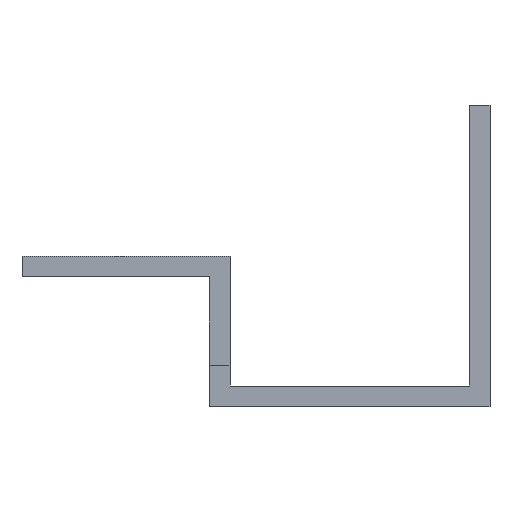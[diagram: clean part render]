
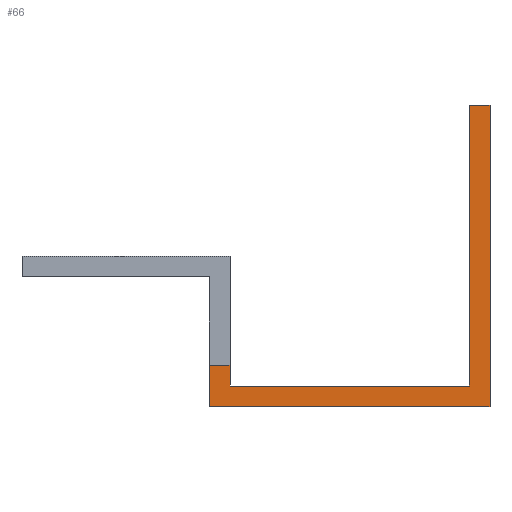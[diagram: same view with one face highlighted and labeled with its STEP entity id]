
A CAD part, front view. The second image highlights one B-rep face of the part: STEP entity #66.
In plain terms, the highlighted planar face has unit normal (0, -1, 0).
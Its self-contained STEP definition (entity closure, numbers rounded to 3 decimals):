
#66 = ADVANCED_FACE( '', ( #128 ), #129, .F. );
#128 = FACE_OUTER_BOUND( '', #183, .T. );
#129 = PLANE( '', #184 );
#183 = EDGE_LOOP( '', ( #313, #314, #315, #316, #317, #318, #319, #320 ) );
#184 = AXIS2_PLACEMENT_3D( '', #321, #322, #323 );
#313 = ORIENTED_EDGE( '', *, *, #395, .F. );
#314 = ORIENTED_EDGE( '', *, *, #359, .F. );
#315 = ORIENTED_EDGE( '', *, *, #369, .F. );
#316 = ORIENTED_EDGE( '', *, *, #379, .F. );
#317 = ORIENTED_EDGE( '', *, *, #387, .F. );
#318 = ORIENTED_EDGE( '', *, *, #393, .F. );
#319 = ORIENTED_EDGE( '', *, *, #389, .F. );
#320 = ORIENTED_EDGE( '', *, *, #383, .F. );
#321 = CARTESIAN_POINT( '', ( 0., 2., 0. ) );
#322 = DIRECTION( '', ( 0., 1., 0. ) );
#323 = DIRECTION( '', ( 0., 0., 1. ) );
#359 = EDGE_CURVE( '', #430, #432, #433, .T. );
#369 = EDGE_CURVE( '', #446, #430, #448, .T. );
#379 = EDGE_CURVE( '', #459, #446, #461, .T. );
#383 = EDGE_CURVE( '', #464, #466, #467, .T. );
#387 = EDGE_CURVE( '', #470, #459, #472, .T. );
#389 = EDGE_CURVE( '', #466, #474, #475, .T. );
#393 = EDGE_CURVE( '', #474, #470, #479, .T. );
#395 = EDGE_CURVE( '', #432, #464, #481, .T. );
#430 = VERTEX_POINT( '', #531 );
#432 = VERTEX_POINT( '', #534 );
#433 = LINE( '', #535, #536 );
#446 = VERTEX_POINT( '', #555 );
#448 = LINE( '', #558, #559 );
#459 = VERTEX_POINT( '', #575 );
#461 = LINE( '', #578, #579 );
#464 = VERTEX_POINT( '', #583 );
#466 = VERTEX_POINT( '', #586 );
#467 = LINE( '', #587, #588 );
#470 = VERTEX_POINT( '', #592 );
#472 = LINE( '', #595, #596 );
#474 = VERTEX_POINT( '', #598 );
#475 = LINE( '', #599, #600 );
#479 = LINE( '', #605, #606 );
#481 = LINE( '', #608, #609 );
#531 = CARTESIAN_POINT( '', ( 18., 2., -14.5 ) );
#534 = CARTESIAN_POINT( '', ( 18., 2., -10.5 ) );
#535 = CARTESIAN_POINT( '', ( 18., 2., -14.5 ) );
#536 = VECTOR( '', #628, 1000. );
#555 = CARTESIAN_POINT( '', ( 45., 2., -14.5 ) );
#558 = CARTESIAN_POINT( '', ( 45., 2., -14.5 ) );
#559 = VECTOR( '', #636, 1000. );
#575 = CARTESIAN_POINT( '', ( 45., 2., 14.5 ) );
#578 = CARTESIAN_POINT( '', ( 45., 2., 14.5 ) );
#579 = VECTOR( '', #643, 1000. );
#583 = CARTESIAN_POINT( '', ( 20., 2., -10.5 ) );
#586 = CARTESIAN_POINT( '', ( 20., 2., -12.5 ) );
#587 = CARTESIAN_POINT( '', ( 20., 2., 0. ) );
#588 = VECTOR( '', #646, 1000. );
#592 = CARTESIAN_POINT( '', ( 43., 2., 14.5 ) );
#595 = CARTESIAN_POINT( '', ( 41., 2., 14.5 ) );
#596 = VECTOR( '', #649, 1000. );
#598 = CARTESIAN_POINT( '', ( 43., 2., -12.5 ) );
#599 = CARTESIAN_POINT( '', ( 20., 2., -12.5 ) );
#600 = VECTOR( '', #650, 1000. );
#605 = CARTESIAN_POINT( '', ( 43., 2., -12.5 ) );
#606 = VECTOR( '', #652, 1000. );
#608 = CARTESIAN_POINT( '', ( 18., 2., -10.5 ) );
#609 = VECTOR( '', #653, 1000. );
#628 = DIRECTION( '', ( 0., 0., 1. ) );
#636 = DIRECTION( '', ( -1., 0., 0. ) );
#643 = DIRECTION( '', ( 0., 0., -1. ) );
#646 = DIRECTION( '', ( 0., 0., -1. ) );
#649 = DIRECTION( '', ( 1., 0., 0. ) );
#650 = DIRECTION( '', ( 1., 0., 0. ) );
#652 = DIRECTION( '', ( 0., 0., 1. ) );
#653 = DIRECTION( '', ( 1., 0., 0. ) );
